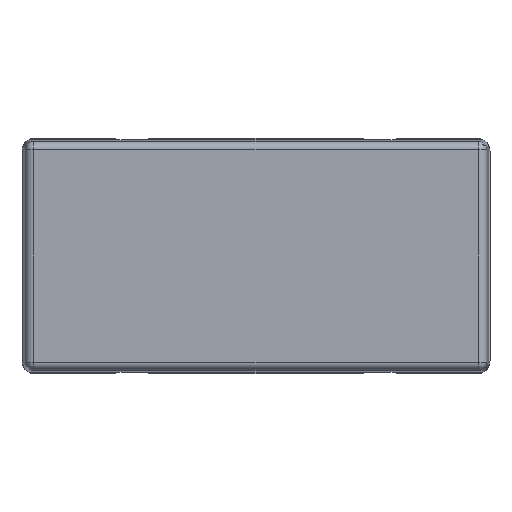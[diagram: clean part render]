
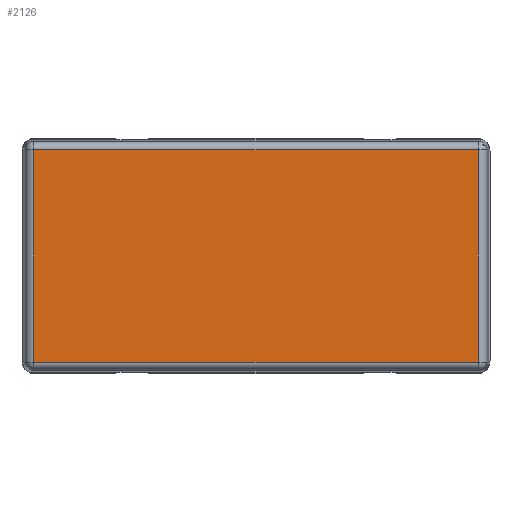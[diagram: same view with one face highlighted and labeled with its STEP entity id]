
A CAD part, front view. The second image highlights one B-rep face of the part: STEP entity #2126.
In plain terms, the highlighted planar face has unit normal (0, -1, 0).
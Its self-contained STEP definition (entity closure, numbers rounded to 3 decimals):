
#12 = VERTEX_POINT ( 'NONE', #2344 ) ;
#221 = FACE_OUTER_BOUND ( 'NONE', #1741, .T. ) ;
#240 = CARTESIAN_POINT ( 'NONE',  ( 0., -10.9, 0. ) ) ;
#272 = ORIENTED_EDGE ( 'NONE', *, *, #911, .T. ) ;
#350 = EDGE_CURVE ( 'NONE', #870, #3026, #544, .T. ) ;
#495 = CARTESIAN_POINT ( 'NONE',  ( -24.29, -10.9, 11.59 ) ) ;
#544 = LINE ( 'NONE', #1993, #1034 ) ;
#602 = VERTEX_POINT ( 'NONE', #652 ) ;
#652 = CARTESIAN_POINT ( 'NONE',  ( -24.29, -10.9, -11.59 ) ) ;
#870 = VERTEX_POINT ( 'NONE', #2667 ) ;
#911 = EDGE_CURVE ( 'NONE', #3026, #602, #2212, .T. ) ;
#968 = CARTESIAN_POINT ( 'NONE',  ( 24.29, -10.9, 12.472 ) ) ;
#975 = DIRECTION ( 'NONE',  ( 1., 0., 0. ) ) ;
#1034 = VECTOR ( 'NONE', #2711, 1000. ) ;
#1201 = PLANE ( 'NONE',  #2989 ) ;
#1255 = CARTESIAN_POINT ( 'NONE',  ( -24.29, -10.9, -12.472 ) ) ;
#1394 = CARTESIAN_POINT ( 'NONE',  ( 25.172, -10.9, -11.59 ) ) ;
#1415 = VECTOR ( 'NONE', #2631, 1000. ) ;
#1741 = EDGE_LOOP ( 'NONE', ( #272, #2391, #2506, #2400 ) ) ;
#1929 = VECTOR ( 'NONE', #2198, 1000. ) ;
#1967 = DIRECTION ( 'NONE',  ( 0., -1., 0. ) ) ;
#1993 = CARTESIAN_POINT ( 'NONE',  ( -25.172, -10.9, 11.59 ) ) ;
#2126 = ADVANCED_FACE ( 'NONE', ( #221 ), #1201, .T. ) ;
#2143 = DIRECTION ( 'NONE',  ( 1., 0., 0. ) ) ;
#2198 = DIRECTION ( 'NONE',  ( 0., 0., -1. ) ) ;
#2212 = LINE ( 'NONE', #1255, #1929 ) ;
#2344 = CARTESIAN_POINT ( 'NONE',  ( 24.29, -10.9, -11.59 ) ) ;
#2353 = LINE ( 'NONE', #1394, #2854 ) ;
#2391 = ORIENTED_EDGE ( 'NONE', *, *, #2407, .T. ) ;
#2400 = ORIENTED_EDGE ( 'NONE', *, *, #350, .T. ) ;
#2407 = EDGE_CURVE ( 'NONE', #602, #12, #2353, .T. ) ;
#2506 = ORIENTED_EDGE ( 'NONE', *, *, #3048, .T. ) ;
#2631 = DIRECTION ( 'NONE',  ( 0., 0., 1. ) ) ;
#2667 = CARTESIAN_POINT ( 'NONE',  ( 24.29, -10.9, 11.59 ) ) ;
#2690 = LINE ( 'NONE', #968, #1415 ) ;
#2711 = DIRECTION ( 'NONE',  ( -1., 0., 0. ) ) ;
#2854 = VECTOR ( 'NONE', #975, 1000. ) ;
#2989 = AXIS2_PLACEMENT_3D ( 'NONE', #240, #1967, #2143 ) ;
#3026 = VERTEX_POINT ( 'NONE', #495 ) ;
#3048 = EDGE_CURVE ( 'NONE', #12, #870, #2690, .T. ) ;
